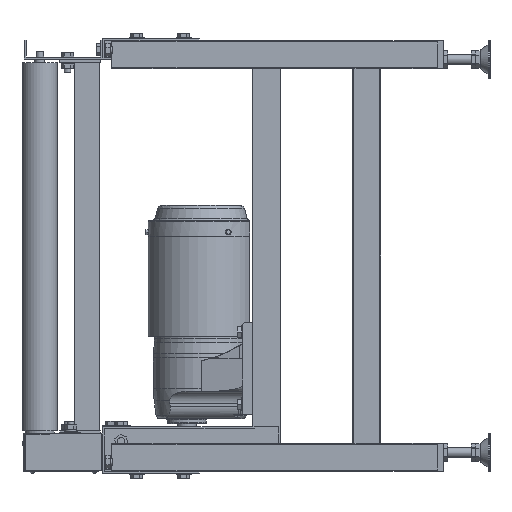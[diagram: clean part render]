
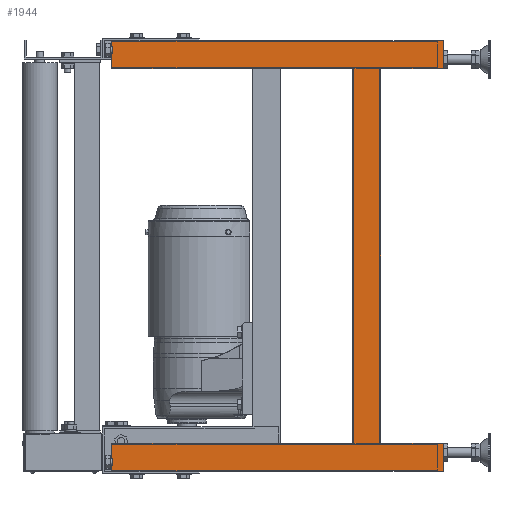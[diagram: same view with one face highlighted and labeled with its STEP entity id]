
A CAD part, left-side view. The second image highlights one B-rep face of the part: STEP entity #1944.
In plain terms, the highlighted planar face has unit normal (-1, 0, 0).
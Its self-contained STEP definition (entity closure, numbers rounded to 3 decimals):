
#1944=ADVANCED_FACE('',(#16626),#16625,.T.);
#16625=PLANE('',#28665);
#16626=FACE_OUTER_BOUND('',#28666,.T.);
#28662=CARTESIAN_POINT('',(112.5,-685.,-370.));
#28663=DIRECTION('',(-1.,0.,0.));
#28664=DIRECTION('',(0.,0.,1.));
#28665=AXIS2_PLACEMENT_3D('',#28662,#28663,#28664);
#28666=EDGE_LOOP('',(#38752,#38753,#38754,#38755,#38756,#38757,#38758,#38759,#38760,#38761,#38762,#38763,#38764,#38765,#38766,#38767,#38768,#38769));
#38752=ORIENTED_EDGE('',*,*,#44770,.T.);
#38753=ORIENTED_EDGE('',*,*,#44771,.T.);
#38754=ORIENTED_EDGE('',*,*,#44772,.T.);
#38755=ORIENTED_EDGE('',*,*,#44773,.T.);
#38756=ORIENTED_EDGE('',*,*,#44774,.F.);
#38757=ORIENTED_EDGE('',*,*,#44754,.F.);
#38758=ORIENTED_EDGE('',*,*,#44454,.F.);
#38759=ORIENTED_EDGE('',*,*,#44559,.T.);
#38760=ORIENTED_EDGE('',*,*,#44578,.T.);
#38761=ORIENTED_EDGE('',*,*,#44628,.F.);
#38762=ORIENTED_EDGE('',*,*,#44688,.F.);
#38763=ORIENTED_EDGE('',*,*,#44625,.F.);
#38764=ORIENTED_EDGE('',*,*,#44567,.F.);
#38765=ORIENTED_EDGE('',*,*,#44561,.F.);
#38766=ORIENTED_EDGE('',*,*,#44568,.T.);
#38767=ORIENTED_EDGE('',*,*,#44457,.T.);
#38768=ORIENTED_EDGE('',*,*,#44442,.F.);
#38769=ORIENTED_EDGE('',*,*,#44768,.T.);
#44442=EDGE_CURVE('',#68200,#68207,#68208,.T.);
#44454=EDGE_CURVE('',#68283,#68290,#68291,.T.);
#44457=EDGE_CURVE('',#68309,#68207,#68310,.T.);
#44559=EDGE_CURVE('',#68283,#68981,#68988,.T.);
#44561=EDGE_CURVE('',#68995,#69002,#69003,.T.);
#44567=EDGE_CURVE('',#69002,#69030,#69043,.T.);
#44568=EDGE_CURVE('',#68995,#68309,#69049,.T.);
#44578=EDGE_CURVE('',#68981,#69107,#69114,.T.);
#44625=EDGE_CURVE('',#69030,#69432,#69433,.T.);
#44628=EDGE_CURVE('',#69446,#69107,#69453,.T.);
#44688=EDGE_CURVE('',#69432,#69446,#69844,.T.);
#44754=EDGE_CURVE('',#68290,#70274,#70275,.T.);
#44768=EDGE_CURVE('',#68200,#70362,#70369,.T.);
#44770=EDGE_CURVE('',#70362,#70382,#70383,.T.);
#44771=EDGE_CURVE('',#70382,#70389,#70390,.T.);
#44772=EDGE_CURVE('',#70389,#70396,#70397,.T.);
#44773=EDGE_CURVE('',#70396,#70403,#70404,.T.);
#44774=EDGE_CURVE('',#70274,#70403,#70410,.T.);
#68200=VERTEX_POINT('',#91765);
#68207=VERTEX_POINT('',#91769);
#68208=LINE('',#91770,#91771);
#68283=VERTEX_POINT('',#91812);
#68290=VERTEX_POINT('',#91816);
#68291=LINE('',#91817,#91818);
#68309=VERTEX_POINT('',#91826);
#68310=LINE('',#91827,#91828);
#68981=VERTEX_POINT('',#92204);
#68988=LINE('',#92208,#92209);
#68995=VERTEX_POINT('',#92212);
#69002=VERTEX_POINT('',#92216);
#69003=LINE('',#92217,#92218);
#69030=VERTEX_POINT('',#92233);
#69043=LINE('',#92240,#92241);
#69049=LINE('',#92243,#92244);
#69107=VERTEX_POINT('',#92274);
#69114=LINE('',#92278,#92279);
#69432=VERTEX_POINT('',#92469);
#69433=LINE('',#92470,#92471);
#69446=VERTEX_POINT('',#92478);
#69453=LINE('',#92483,#92484);
#69844=LINE('',#92705,#92706);
#70274=VERTEX_POINT('',#92943);
#70275=LINE('',#92944,#92945);
#70362=VERTEX_POINT('',#92995);
#70369=LINE('',#92999,#93000);
#70382=VERTEX_POINT('',#93007);
#70383=LINE('',#93008,#93009);
#70389=VERTEX_POINT('',#93011);
#70390=LINE('',#93012,#93013);
#70396=VERTEX_POINT('',#93015);
#70397=LINE('',#93016,#93017);
#70403=VERTEX_POINT('',#93019);
#70404=LINE('',#93020,#93021);
#70410=LINE('',#93023,#93024);
#91765=CARTESIAN_POINT('',(112.5,-675.,285.));
#91769=CARTESIAN_POINT('',(112.5,-575.,285.));
#91770=CARTESIAN_POINT('',(112.5,-675.,285.));
#91771=VECTOR('',#91772,100.);
#91772=DIRECTION('',(0.,1.,0.));
#91812=CARTESIAN_POINT('',(112.5,-530.,-315.));
#91816=CARTESIAN_POINT('',(112.5,-530.,285.));
#91817=CARTESIAN_POINT('',(112.5,-530.,-315.));
#91818=VECTOR('',#91819,600.);
#91819=DIRECTION('',(0.,0.,1.));
#91826=CARTESIAN_POINT('',(112.5,-575.,-315.));
#91827=CARTESIAN_POINT('',(112.5,-575.,-315.));
#91828=VECTOR('',#91829,600.);
#91829=DIRECTION('',(0.,0.,1.));
#92204=CARTESIAN_POINT('',(112.5,-144.,-315.));
#92208=CARTESIAN_POINT('',(112.5,-530.,-315.));
#92209=VECTOR('',#92210,386.);
#92210=DIRECTION('',(0.,1.,0.));
#92212=CARTESIAN_POINT('',(112.5,-675.,-315.));
#92216=CARTESIAN_POINT('',(112.5,-675.,-360.));
#92217=CARTESIAN_POINT('',(112.5,-675.,-315.));
#92218=VECTOR('',#92219,45.);
#92219=DIRECTION('',(0.,0.,-1.));
#92233=CARTESIAN_POINT('',(112.5,-284.,-360.));
#92240=CARTESIAN_POINT('',(112.5,-675.,-360.));
#92241=VECTOR('',#92242,391.);
#92242=DIRECTION('',(0.,1.,0.));
#92243=CARTESIAN_POINT('',(112.5,-675.,-315.));
#92244=VECTOR('',#92245,100.);
#92245=DIRECTION('',(0.,1.,0.));
#92274=CARTESIAN_POINT('',(112.5,-144.,-360.));
#92278=CARTESIAN_POINT('',(112.5,-144.,-315.));
#92279=VECTOR('',#92280,45.);
#92280=DIRECTION('',(0.,0.,-1.));
#92469=CARTESIAN_POINT('',(112.5,-199.548,-360.));
#92470=CARTESIAN_POINT('',(112.5,-284.,-360.));
#92471=VECTOR('',#92472,84.452);
#92472=DIRECTION('',(0.,1.,0.));
#92478=CARTESIAN_POINT('',(112.5,-187.768,-360.));
#92483=CARTESIAN_POINT('',(112.5,-187.768,-360.));
#92484=VECTOR('',#92485,43.768);
#92485=DIRECTION('',(0.,1.,0.));
#92705=CARTESIAN_POINT('',(112.5,-199.548,-360.));
#92706=VECTOR('',#92707,11.78);
#92707=DIRECTION('',(0.,1.,0.));
#92943=CARTESIAN_POINT('',(112.5,-144.,285.));
#92944=CARTESIAN_POINT('',(112.5,-530.,285.));
#92945=VECTOR('',#92946,386.);
#92946=DIRECTION('',(0.,1.,0.));
#92995=CARTESIAN_POINT('',(112.5,-675.,330.));
#92999=CARTESIAN_POINT('',(112.5,-675.,285.));
#93000=VECTOR('',#93001,45.);
#93001=DIRECTION('',(0.,0.,1.));
#93007=CARTESIAN_POINT('',(112.5,-284.,330.));
#93008=CARTESIAN_POINT('',(112.5,-675.,330.));
#93009=VECTOR('',#93010,391.);
#93010=DIRECTION('',(0.,1.,0.));
#93011=CARTESIAN_POINT('',(112.5,-199.548,330.));
#93012=CARTESIAN_POINT('',(112.5,-284.,330.));
#93013=VECTOR('',#93014,84.452);
#93014=DIRECTION('',(0.,1.,0.));
#93015=CARTESIAN_POINT('',(112.5,-187.768,330.));
#93016=CARTESIAN_POINT('',(112.5,-199.548,330.));
#93017=VECTOR('',#93018,11.78);
#93018=DIRECTION('',(0.,1.,0.));
#93019=CARTESIAN_POINT('',(112.5,-144.,330.));
#93020=CARTESIAN_POINT('',(112.5,-187.768,330.));
#93021=VECTOR('',#93022,43.768);
#93022=DIRECTION('',(0.,1.,0.));
#93023=CARTESIAN_POINT('',(112.5,-144.,285.));
#93024=VECTOR('',#93025,45.);
#93025=DIRECTION('',(0.,0.,1.));
